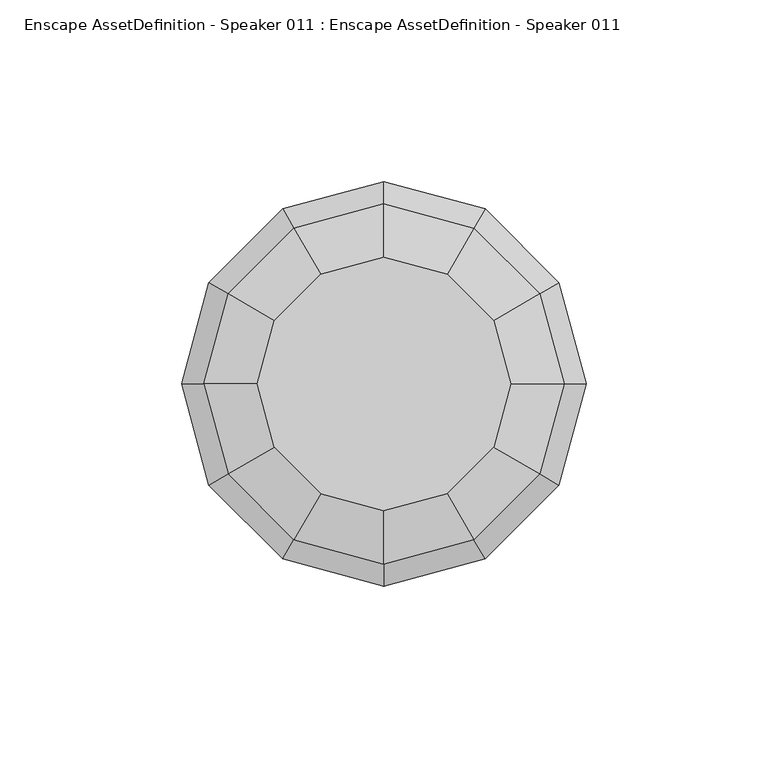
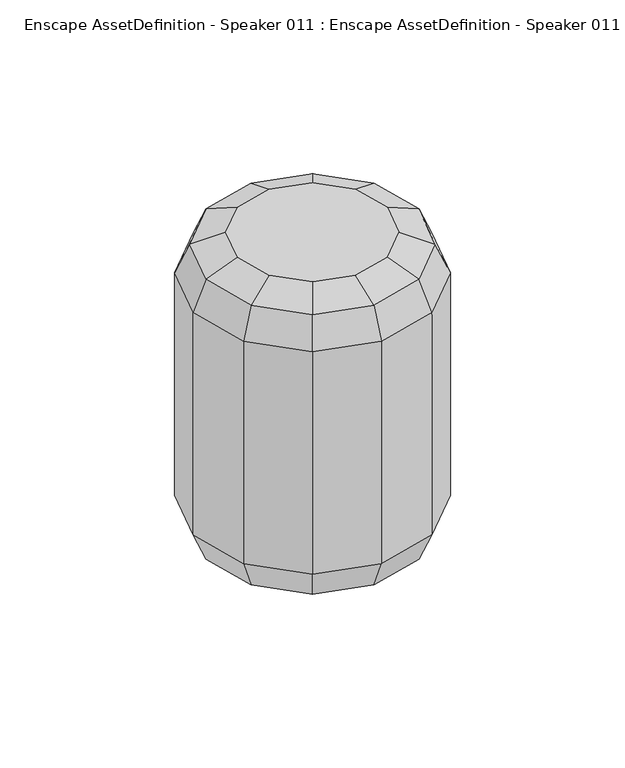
"""IFC4 building model written with IfcOpenShell, lengths in millimetres: geographic element geometry, Enscape AssetDefinition - Speaker 011 : Enscape AssetDefinition - Speaker 011."""

from ifc_helpers import new_model, si_unit, origin, place, context, project, spatial, triangles, source, transform, mapped, element, save


def enscape_assetdefinition_speaker_011_enscape_assetdefinition_b5ab8f96(model_context):
    return source(origin(), model_context, "Body", "Tessellation", [
        triangles([(0.0, -55.5719986, 19.9810001), (42.8799998, -24.7569986, 5.8519996), (27.7859993, -48.1269997, 19.9810001), (24.7569986, -42.8799998, 5.8519996), (48.1269997, -27.7859993, 129.3089948), (48.1269997, -27.7859993, 19.9810001), (42.8799998, -24.7569986, 143.4379925), (27.7859993, -48.1269997, 129.3089948), (49.5130025, 0.0, 143.4379925), (55.5719986, 0.0, 129.3089948), (48.1269997, 27.7859993, 129.3089948), (42.8799998, 24.7569986, 143.4379925), (27.7859993, 48.1269997, 19.9810001), (27.7859993, 48.1269997, 129.3089948), (55.5719986, 0.0, 19.9810001), (42.8799998, 24.7569986, 5.8519996), (48.1269997, 27.7859993, 19.9810001), (0.0, 49.5130025, 5.8519996), (0.0, 55.5719986, 19.9810001), (-27.7859993, 48.1269997, 19.9810001), (24.7569986, 42.8799998, 5.8519996), (0.0, 34.8859997, 0.0), (-24.7569986, 42.8799998, 5.8519996), (-17.4429998, 30.2120004, 0.0), (-42.8799998, 24.7569986, 5.8519996), (-48.1269997, 27.7859993, 19.9810001), (-55.5719986, 0.0, 19.9810001), (-27.7859993, 48.1269997, 129.3089948), (0.0, 49.5130025, 143.4379925), (0.0, 55.5719986, 129.3089948), (-48.1269997, 27.7859993, 129.3089948), (-55.5719986, 0.0, 129.3089948), (-17.4429998, 30.2120004, 149.2899972), (-30.2120004, 17.4429998, 149.2899972), (-24.7569986, 42.8799998, 143.4379925), (24.7569986, 42.8799998, 143.4379925), (17.4429998, 30.2120004, 149.2899972), (30.2120004, 17.4429998, 149.2899972), (0.0, 34.8859997, 149.2899972), (34.8859997, 0.0, 149.2899972), (17.4429998, -30.2120004, 149.2899972), (30.2120004, -17.4429998, 149.2899972), (0.0, -49.5130025, 143.4379925), (0.0, -34.8859997, 149.2899972), (24.7569986, -42.8799998, 143.4379925), (-17.4429998, -30.2120004, 149.2899972), (-42.8799998, -24.7569986, 143.4379925), (-24.7569986, -42.8799998, 143.4379925), (0.0, -55.5719986, 129.3089948), (-27.7859993, -48.1269997, 129.3089948), (-48.1269997, -27.7859993, 19.9810001), (-48.1269997, -27.7859993, 129.3089948), (-27.7859993, -48.1269997, 19.9810001), (0.0, -49.5130025, 5.8519996), (-24.7569986, -42.8799998, 5.8519996), (-42.8799998, -24.7569986, 5.8519996), (-17.4429998, -30.2120004, 0.0), (-30.2120004, -17.4429998, 0.0), (0.0, -34.8859997, 0.0), (17.4429998, -30.2120004, 0.0), (30.2120004, -17.4429998, 0.0), (34.8859997, 0.0, 0.0), (49.5130025, 0.0, 5.8519996), (17.4429998, 30.2120004, 0.0), (-30.2120004, 17.4429998, 0.0), (30.2120004, 17.4429998, 0.0), (-49.5130025, 0.0, 5.8519996), (-34.8859997, 0.0, 0.0), (-42.8799998, 24.7569986, 143.4379925), (-49.5130025, 0.0, 143.4379925), (-34.8859997, 0.0, 149.2899972), (-30.2120004, -17.4429998, 149.2899972)], [[71, 72, 39], [34, 71, 39], [39, 33, 34], [72, 71, 70], [34, 70, 71], [34, 69, 70], [69, 32, 70], [51, 32, 27], [27, 56, 51], [67, 68, 58], [27, 67, 56], [67, 58, 56], [58, 68, 65], [58, 65, 66], [67, 65, 68], [65, 24, 22], [64, 66, 65], [22, 64, 65], [21, 64, 22], [21, 66, 64], [21, 16, 66], [15, 63, 16], [63, 66, 16], [15, 2, 63], [63, 62, 66], [63, 2, 61], [63, 61, 62], [2, 4, 60], [2, 60, 61], [59, 58, 66], [61, 60, 59], [62, 61, 59], [66, 62, 59], [59, 57, 58], [56, 58, 57], [51, 56, 55], [56, 57, 55], [54, 59, 60], [54, 55, 57], [54, 60, 4], [54, 57, 59], [1, 54, 4], [53, 55, 54], [53, 54, 1], [51, 55, 53], [70, 32, 52], [51, 52, 32], [53, 52, 51], [70, 52, 47], [72, 70, 47], [47, 52, 50], [53, 50, 52], [1, 50, 53], [1, 49, 50], [48, 50, 49], [72, 47, 48], [47, 50, 48], [72, 48, 46], [46, 48, 43], [48, 49, 43], [45, 43, 49], [44, 43, 45], [72, 46, 44], [44, 45, 41], [46, 43, 44], [42, 41, 45], [72, 44, 42], [44, 41, 42], [72, 42, 39], [37, 39, 42], [38, 37, 42], [42, 40, 38], [40, 12, 38], [39, 37, 36], [38, 12, 36], [38, 36, 37], [36, 30, 29], [39, 36, 29], [34, 33, 35], [39, 29, 35], [34, 35, 69], [39, 35, 33], [69, 31, 32], [27, 32, 31], [35, 31, 69], [35, 28, 31], [29, 30, 28], [29, 28, 35], [26, 31, 28], [26, 67, 27], [27, 31, 26], [67, 25, 65], [26, 25, 67], [20, 28, 30], [20, 25, 26], [26, 28, 20], [23, 24, 65], [20, 23, 25], [23, 65, 25], [18, 22, 24], [21, 22, 18], [18, 24, 23], [19, 18, 23], [19, 23, 20], [20, 30, 19], [36, 14, 30], [19, 30, 14], [12, 14, 36], [13, 21, 18], [13, 18, 19], [19, 14, 13], [17, 16, 21], [17, 21, 13], [15, 16, 17], [12, 11, 14], [13, 14, 11], [13, 11, 17], [40, 9, 12], [9, 11, 12], [42, 9, 40], [9, 10, 11], [17, 11, 10], [17, 10, 15], [42, 7, 9], [7, 10, 9], [42, 45, 7], [7, 5, 10], [15, 10, 5], [7, 45, 8], [7, 8, 5], [45, 49, 8], [15, 6, 2], [6, 5, 8], [15, 5, 6], [3, 4, 2], [3, 8, 49], [3, 2, 6], [1, 4, 3], [6, 8, 3], [3, 49, 1]]),
    ])


if __name__ == "__main__":
    model = new_model("IFC4")
    model_context = context("Model", 3, world=origin())
    ifc_project = project(units=[si_unit("LENGTHUNIT", "METRE", prefix="MILLI")], contexts=[model_context])
    site = spatial("IfcSite", under=ifc_project)
    building = spatial("IfcBuilding", under=site)
    placement = place(None, origin())
    enscape_assetdefinition_speaker_011_enscape_assetdefinition_shape = enscape_assetdefinition_speaker_011_enscape_assetdefinition_b5ab8f96(model_context)
    element("IfcGeographicElement", 1, ObjectType="Enscape AssetDefinition - Speaker 011 : Enscape AssetDefinition - Speaker 011", at=placement, inside=building, context=model_context, shape_type="MappedRepresentation", body=[
        mapped(enscape_assetdefinition_speaker_011_enscape_assetdefinition_shape, transform((0.0, 0.0, 0.0), x_axis=(1.0, 0.0, 0.0), y_axis=(0.0, 1.0, 0.0), z_axis=(0.0, 0.0, 1.0))),
    ])
    save(model, "model.ifc")
